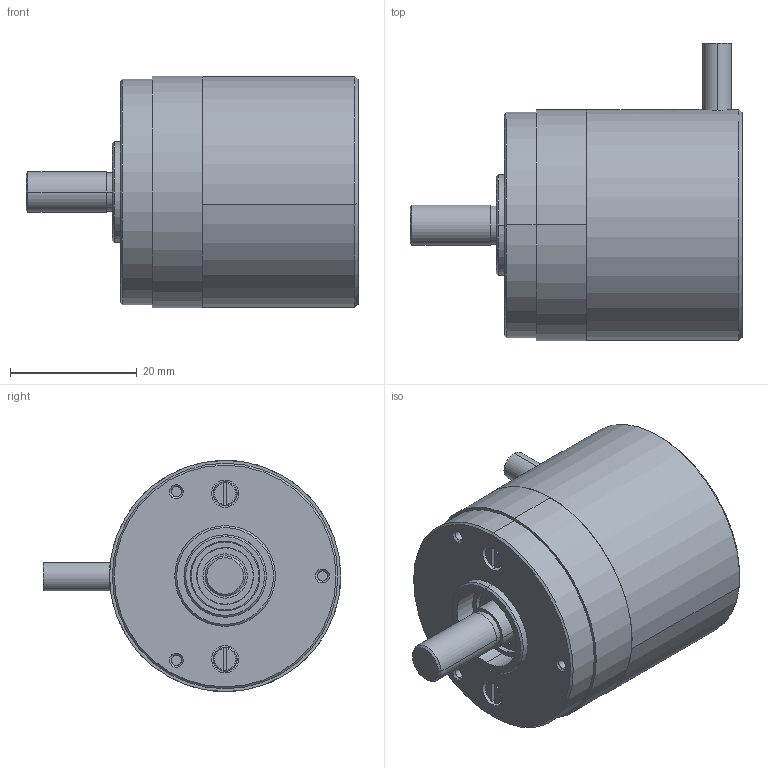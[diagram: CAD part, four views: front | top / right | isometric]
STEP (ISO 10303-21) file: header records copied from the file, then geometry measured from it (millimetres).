
FILE_DESCRIPTION (( 'STEP AP214' ), '1' );
FILE_NAME ('ﾋﾈﾐ-137ﾂ.STEP', '2017-05-23T08:43:10', ( '' ), ( '' ), 'SwSTEP 2.0', 'SolidWorks 2013', '' );
FILE_SCHEMA (( 'AUTOMOTIVE_DESIGN' ));
Length unit declared in the file: millimetre
Products named in the file (1): ﾋﾈﾐ-137ﾂ
Bounding box: 52.4 x 46.95 x 36.5 mm (x, y, z)
Surface area: 8465.6 mm2 (no closed solid volume)
Topology: 0 solids, 10 shells, 82 faces, 230 edges, 159 vertices
Faces by surface type: cylinder 34, cone 20, plane 20, torus 6, bspline 2
Entity records: 5430 total; most frequent: CARTESIAN_POINT 2382, DIRECTION 481, ORIENTED_EDGE 382, EDGE_CURVE 230, AXIS2_PLACEMENT_3D 209, VERTEX_POINT 159, CIRCLE 128, EDGE_LOOP 96
